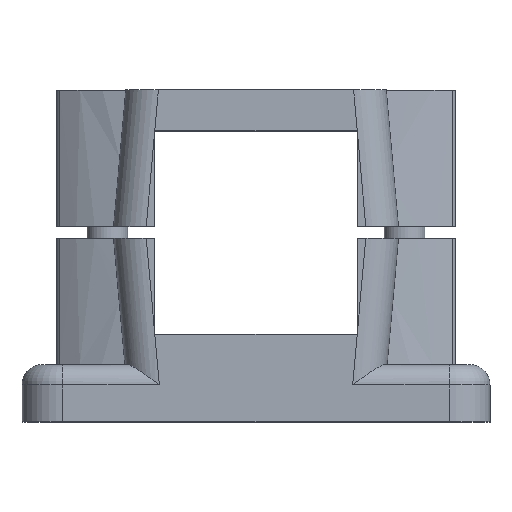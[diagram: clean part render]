
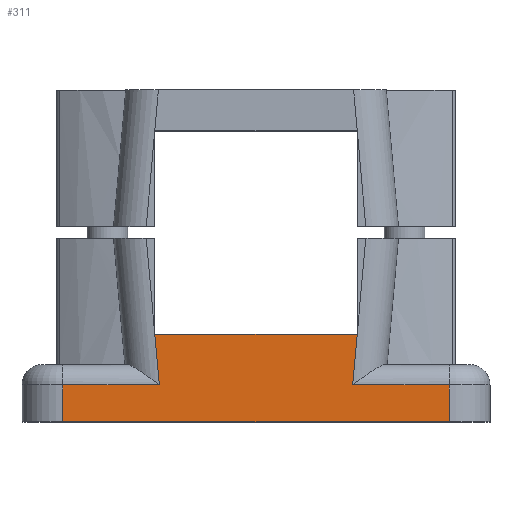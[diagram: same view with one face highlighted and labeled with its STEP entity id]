
A CAD part, top view. The second image highlights one B-rep face of the part: STEP entity #311.
In plain terms, the highlighted planar face has unit normal (0, 0, 1).
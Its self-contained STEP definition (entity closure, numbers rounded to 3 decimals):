
#311 = ADVANCED_FACE( '', ( #839 ), #840, .T. );
#839 = FACE_OUTER_BOUND( '', #1375, .T. );
#840 = PLANE( '', #1376 );
#1375 = EDGE_LOOP( '', ( #3286, #3287, #3288, #3289, #3290, #3291, #3292, #3293 ) );
#1376 = AXIS2_PLACEMENT_3D( '', #3294, #3295, #3296 );
#3286 = ORIENTED_EDGE( '', *, *, #3715, .T. );
#3287 = ORIENTED_EDGE( '', *, *, #3760, .T. );
#3288 = ORIENTED_EDGE( '', *, *, #3726, .F. );
#3289 = ORIENTED_EDGE( '', *, *, #3761, .T. );
#3290 = ORIENTED_EDGE( '', *, *, #3562, .T. );
#3291 = ORIENTED_EDGE( '', *, *, #3619, .F. );
#3292 = ORIENTED_EDGE( '', *, *, #3551, .F. );
#3293 = ORIENTED_EDGE( '', *, *, #3378, .T. );
#3294 = CARTESIAN_POINT( '', ( 0., 0., 38. ) );
#3295 = DIRECTION( '', ( 0., 0., 1. ) );
#3296 = DIRECTION( '', ( 1., 0., 0. ) );
#3378 = EDGE_CURVE( '', #4019, #4017, #4020, .T. );
#3551 = EDGE_CURVE( '', #4019, #4330, #4331, .T. );
#3562 = EDGE_CURVE( '', #4343, #4346, #4348, .T. );
#3619 = EDGE_CURVE( '', #4330, #4346, #4441, .T. );
#3715 = EDGE_CURVE( '', #4017, #4603, #4605, .T. );
#3726 = EDGE_CURVE( '', #4619, #4621, #4622, .T. );
#3760 = EDGE_CURVE( '', #4603, #4621, #4670, .T. );
#3761 = EDGE_CURVE( '', #4619, #4343, #4671, .T. );
#4017 = VERTEX_POINT( '', #5112 );
#4019 = VERTEX_POINT( '', #5135 );
#4020 = LINE( '', #5136, #5137 );
#4330 = VERTEX_POINT( '', #5542 );
#4331 = LINE( '', #5543, #5544 );
#4343 = VERTEX_POINT( '', #5557 );
#4346 = VERTEX_POINT( '', #5560 );
#4348 = LINE( '', #5562, #5563 );
#4441 = LINE( '', #5695, #5696 );
#4603 = VERTEX_POINT( '', #5919 );
#4605 = LINE( '', #5921, #5922 );
#4619 = VERTEX_POINT( '', #5942 );
#4621 = VERTEX_POINT( '', #5965 );
#4622 = LINE( '', #5966, #5967 );
#4670 = LINE( '', #6032, #6033 );
#4671 = LINE( '', #6034, #6035 );
#5112 = CARTESIAN_POINT( '', ( 23.749, -37.5, 38. ) );
#5135 = CARTESIAN_POINT( '', ( 47.5, -37.5, 38. ) );
#5136 = CARTESIAN_POINT( '', ( 47.5, -37.5, 38. ) );
#5137 = VECTOR( '', #6607, 1000. );
#5542 = CARTESIAN_POINT( '', ( 47.5, -46.5, 38. ) );
#5543 = CARTESIAN_POINT( '', ( 47.5, -37.5, 38. ) );
#5544 = VECTOR( '', #6934, 1000. );
#5557 = CARTESIAN_POINT( '', ( -47.5, -37.5, 38. ) );
#5560 = CARTESIAN_POINT( '', ( -47.5, -46.5, 38. ) );
#5562 = CARTESIAN_POINT( '', ( -47.5, -37.5, 38. ) );
#5563 = VECTOR( '', #6963, 1000. );
#5695 = CARTESIAN_POINT( '', ( 47.5, -46.5, 38. ) );
#5696 = VECTOR( '', #7054, 1000. );
#5919 = CARTESIAN_POINT( '', ( 24.869, -25., 38. ) );
#5921 = CARTESIAN_POINT( '', ( 23.693, -38.131, 38. ) );
#5922 = VECTOR( '', #7218, 1000. );
#5942 = CARTESIAN_POINT( '', ( -23.749, -37.5, 38. ) );
#5965 = CARTESIAN_POINT( '', ( -24.869, -25., 38. ) );
#5966 = CARTESIAN_POINT( '', ( -23.693, -38.131, 38. ) );
#5967 = VECTOR( '', #7234, 1000. );
#6032 = CARTESIAN_POINT( '', ( 0., -25., 38. ) );
#6033 = VECTOR( '', #7300, 1000. );
#6034 = CARTESIAN_POINT( '', ( 47.5, -37.5, 38. ) );
#6035 = VECTOR( '', #7301, 1000. );
#6607 = DIRECTION( '', ( -1., 0., 0. ) );
#6934 = DIRECTION( '', ( 0., -1., 0. ) );
#6963 = DIRECTION( '', ( 0., -1., 0. ) );
#7054 = DIRECTION( '', ( -1., 0., 0. ) );
#7218 = DIRECTION( '', ( 0.089, 0.996, 0. ) );
#7234 = DIRECTION( '', ( -0.089, 0.996, 0. ) );
#7300 = DIRECTION( '', ( -1., 0., 0. ) );
#7301 = DIRECTION( '', ( -1., 0., 0. ) );
